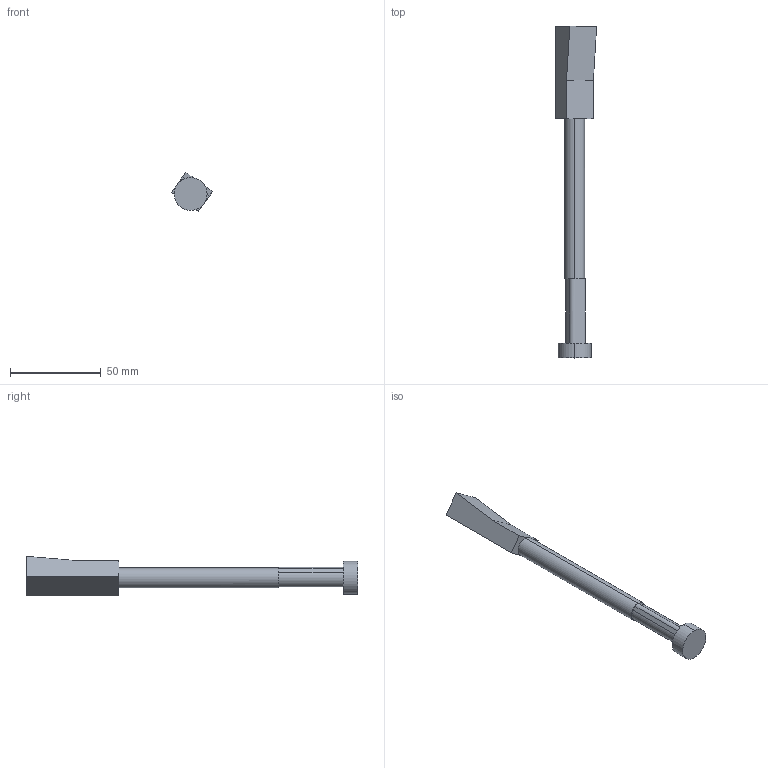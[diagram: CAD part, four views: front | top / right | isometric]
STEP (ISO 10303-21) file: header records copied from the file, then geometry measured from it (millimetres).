
FILE_DESCRIPTION (( 'STEP AP203' ), '1' );
FILE_NAME ('PW101830_.STEP', '2014-10-20T16:32:46', ( '' ), ( '' ), 'SwSTEP 2.0', 'SolidWorks 2014', '' );
FILE_SCHEMA (( 'CONFIG_CONTROL_DESIGN' ));
Length unit declared in the file: millimetre
Products named in the file (1): PW101830_
Bounding box: 22.72 x 183 x 21.69 mm (x, y, z)
Volume: 24012.7 mm3; surface area: 8511.1 mm2
Topology: 1 solids, 1 shells, 26 faces, 62 edges, 39 vertices
Faces by surface type: plane 18, cylinder 8
Entity records: 832 total; most frequent: DIRECTION 141, CARTESIAN_POINT 128, ORIENTED_EDGE 124, EDGE_CURVE 62, AXIS2_PLACEMENT_3D 52, VERTEX_POINT 39, VECTOR 37, LINE 37
